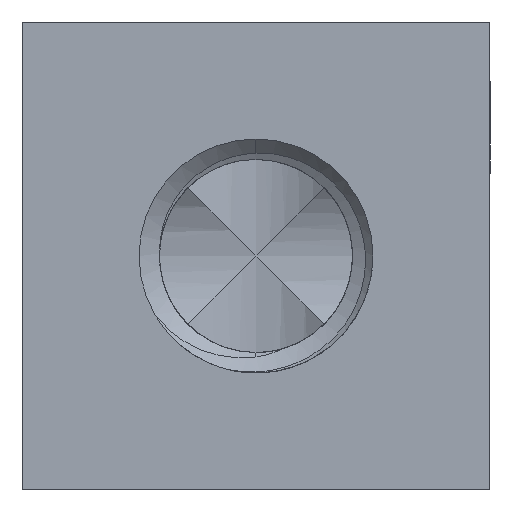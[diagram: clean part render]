
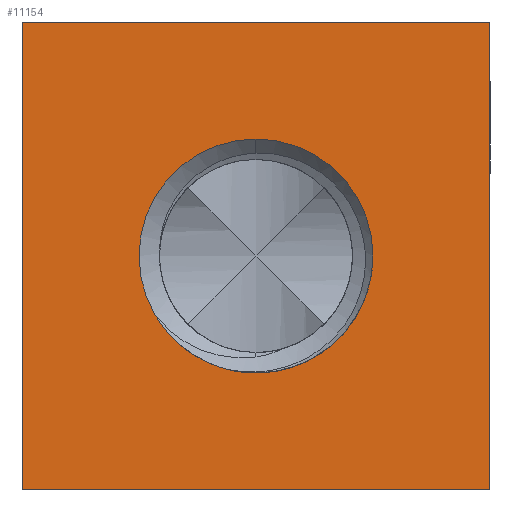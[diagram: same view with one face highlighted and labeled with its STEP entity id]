
A CAD part, front view. The second image highlights one B-rep face of the part: STEP entity #11154.
In plain terms, the highlighted planar face has unit normal (0, -1, 0).
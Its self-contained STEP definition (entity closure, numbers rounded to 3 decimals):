
#712 = CARTESIAN_POINT ( 'NONE',  ( 0., -4., 0. ) ) ;
#1708 = AXIS2_PLACEMENT_3D ( 'NONE', #26962, #8721, #38065 ) ;
#1778 = ORIENTED_EDGE ( 'NONE', *, *, #14085, .T. ) ;
#4945 = EDGE_CURVE ( 'NONE', #12457, #28022, #41510, .T. ) ;
#7109 = VERTEX_POINT ( 'NONE', #40603 ) ;
#7691 = EDGE_CURVE ( 'NONE', #12094, #7109, #14257, .T. ) ;
#8074 = EDGE_CURVE ( 'NONE', #40808, #25124, #17118, .T. ) ;
#8721 = DIRECTION ( 'NONE',  ( 0., 1., 0. ) ) ;
#9061 = ORIENTED_EDGE ( 'NONE', *, *, #35745, .T. ) ;
#9332 = DIRECTION ( 'NONE',  ( 0., 0., 1. ) ) ;
#9738 = AXIS2_PLACEMENT_3D ( 'NONE', #34222, #15498, #19322 ) ;
#10836 = VECTOR ( 'NONE', #9332, 1000. ) ;
#10845 = CARTESIAN_POINT ( 'NONE',  ( 4., -4., 0. ) ) ;
#11154 = ADVANCED_FACE ( 'NONE', ( #43765, #30211 ), #39748, .F. ) ;
#11648 = DIRECTION ( 'NONE',  ( 0., 1., 0. ) ) ;
#11792 = DIRECTION ( 'NONE',  ( 0., 1., 0. ) ) ;
#11920 = CARTESIAN_POINT ( 'NONE',  ( 4., -4., -4. ) ) ;
#12094 = VERTEX_POINT ( 'NONE', #24182 ) ;
#12457 = VERTEX_POINT ( 'NONE', #11920 ) ;
#13289 = CARTESIAN_POINT ( 'NONE',  ( 0., -4., 0. ) ) ;
#13464 = CARTESIAN_POINT ( 'NONE',  ( -4., -4., 0. ) ) ;
#13578 = CARTESIAN_POINT ( 'NONE',  ( 0., -4., 2. ) ) ;
#14085 = EDGE_CURVE ( 'NONE', #25124, #39100, #37344, .T. ) ;
#14257 = LINE ( 'NONE', #13464, #10836 ) ;
#15498 = DIRECTION ( 'NONE',  ( 0., 1., 0. ) ) ;
#16151 = LINE ( 'NONE', #20691, #19050 ) ;
#16918 = DIRECTION ( 'NONE',  ( 0., 1., 0. ) ) ;
#17118 = CIRCLE ( 'NONE', #9738, 2. ) ;
#17210 = ORIENTED_EDGE ( 'NONE', *, *, #4945, .T. ) ;
#17683 = DIRECTION ( 'NONE',  ( 0., 0., 1. ) ) ;
#19050 = VECTOR ( 'NONE', #46540, 1000. ) ;
#19322 = DIRECTION ( 'NONE',  ( 0., 0., 1. ) ) ;
#20494 = AXIS2_PLACEMENT_3D ( 'NONE', #13289, #16918, #46128 ) ;
#20691 = CARTESIAN_POINT ( 'NONE',  ( 0., -4., 4. ) ) ;
#23019 = CIRCLE ( 'NONE', #23479, 2. ) ;
#23479 = AXIS2_PLACEMENT_3D ( 'NONE', #29885, #11648, #26547 ) ;
#24182 = CARTESIAN_POINT ( 'NONE',  ( -4., -4., -4. ) ) ;
#25124 = VERTEX_POINT ( 'NONE', #39240 ) ;
#25552 = ORIENTED_EDGE ( 'NONE', *, *, #8074, .T. ) ;
#26547 = DIRECTION ( 'NONE',  ( 0., 0., 1. ) ) ;
#26962 = CARTESIAN_POINT ( 'NONE',  ( 0., -4., 0. ) ) ;
#27086 = CARTESIAN_POINT ( 'NONE',  ( 0., -4., -4. ) ) ;
#27351 = VECTOR ( 'NONE', #17683, 1000. ) ;
#28022 = VERTEX_POINT ( 'NONE', #45898 ) ;
#28294 = AXIS2_PLACEMENT_3D ( 'NONE', #712, #11792, #40832 ) ;
#28588 = EDGE_CURVE ( 'NONE', #7109, #28022, #16151, .T. ) ;
#29885 = CARTESIAN_POINT ( 'NONE',  ( 0., -4., 0. ) ) ;
#30211 = FACE_OUTER_BOUND ( 'NONE', #40465, .T. ) ;
#30444 = EDGE_CURVE ( 'NONE', #39100, #35846, #23019, .T. ) ;
#31711 = EDGE_CURVE ( 'NONE', #12094, #12457, #43433, .T. ) ;
#32073 = CARTESIAN_POINT ( 'NONE',  ( -0.543, -4., -1.925 ) ) ;
#34222 = CARTESIAN_POINT ( 'NONE',  ( 0., -4., 0. ) ) ;
#35352 = CARTESIAN_POINT ( 'NONE',  ( -1.729, -4., -1.006 ) ) ;
#35745 = EDGE_CURVE ( 'NONE', #35846, #40808, #38270, .T. ) ;
#35846 = VERTEX_POINT ( 'NONE', #35352 ) ;
#37331 = ORIENTED_EDGE ( 'NONE', *, *, #31711, .T. ) ;
#37344 = CIRCLE ( 'NONE', #1708, 2. ) ;
#38065 = DIRECTION ( 'NONE',  ( 0., 0., 1. ) ) ;
#38270 = CIRCLE ( 'NONE', #20494, 2. ) ;
#39100 = VERTEX_POINT ( 'NONE', #32073 ) ;
#39240 = CARTESIAN_POINT ( 'NONE',  ( 0., -4., -2. ) ) ;
#39748 = PLANE ( 'NONE',  #28294 ) ;
#40006 = VECTOR ( 'NONE', #45190, 1000. ) ;
#40465 = EDGE_LOOP ( 'NONE', ( #46385, #45116, #37331, #17210 ) ) ;
#40518 = ORIENTED_EDGE ( 'NONE', *, *, #30444, .T. ) ;
#40603 = CARTESIAN_POINT ( 'NONE',  ( -4., -4., 4. ) ) ;
#40808 = VERTEX_POINT ( 'NONE', #13578 ) ;
#40832 = DIRECTION ( 'NONE',  ( 0., 0., 1. ) ) ;
#41510 = LINE ( 'NONE', #10845, #27351 ) ;
#43433 = LINE ( 'NONE', #27086, #40006 ) ;
#43765 = FACE_BOUND ( 'NONE', #43943, .T. ) ;
#43943 = EDGE_LOOP ( 'NONE', ( #40518, #9061, #25552, #1778 ) ) ;
#45116 = ORIENTED_EDGE ( 'NONE', *, *, #7691, .F. ) ;
#45190 = DIRECTION ( 'NONE',  ( 1., 0., 0. ) ) ;
#45898 = CARTESIAN_POINT ( 'NONE',  ( 4., -4., 4. ) ) ;
#46128 = DIRECTION ( 'NONE',  ( 0., 0., 1. ) ) ;
#46385 = ORIENTED_EDGE ( 'NONE', *, *, #28588, .F. ) ;
#46540 = DIRECTION ( 'NONE',  ( 1., 0., 0. ) ) ;
